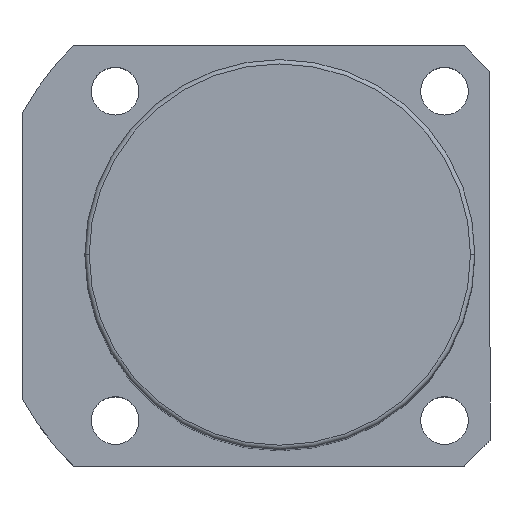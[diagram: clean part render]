
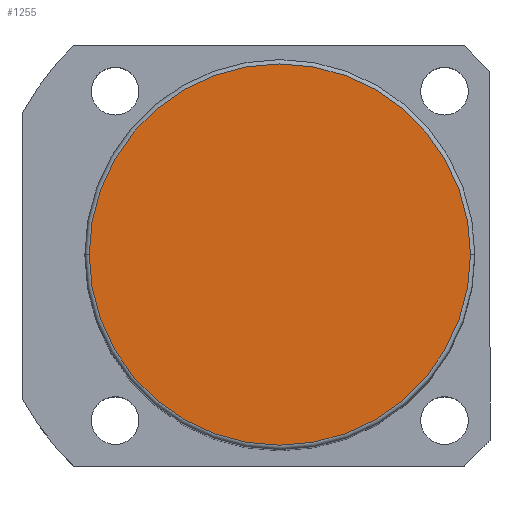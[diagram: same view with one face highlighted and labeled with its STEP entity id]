
A CAD part, top view. The second image highlights one B-rep face of the part: STEP entity #1255.
In plain terms, the highlighted planar face has unit normal (0, 0, 1).
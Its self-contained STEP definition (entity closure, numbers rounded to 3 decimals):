
#142 = VERTEX_POINT ( 'NONE', #2237 ) ;
#681 = FACE_OUTER_BOUND ( 'NONE', #4672, .T. ) ;
#1215 = EDGE_CURVE ( 'NONE', #142, #6666, #4941, .T. ) ;
#1255 = ADVANCED_FACE ( 'NONE', ( #681 ), #5031, .T. ) ;
#2136 = EDGE_CURVE ( 'NONE', #6666, #142, #6384, .T. ) ;
#2178 = DIRECTION ( 'NONE',  ( 1., 0., 0. ) ) ;
#2237 = CARTESIAN_POINT ( 'NONE',  ( -44., 0., 186.5 ) ) ;
#2252 = DIRECTION ( 'NONE',  ( 0., 0., 1. ) ) ;
#2608 = ORIENTED_EDGE ( 'NONE', *, *, #2136, .T. ) ;
#4203 = DIRECTION ( 'NONE',  ( 0., 0., 1. ) ) ;
#4256 = DIRECTION ( 'NONE',  ( 1., 0., 0. ) ) ;
#4672 = EDGE_LOOP ( 'NONE', ( #2608, #6977 ) ) ;
#4895 = AXIS2_PLACEMENT_3D ( 'NONE', #6498, #4203, #5718 ) ;
#4941 = CIRCLE ( 'NONE', #4947, 44. ) ;
#4947 = AXIS2_PLACEMENT_3D ( 'NONE', #5501, #5458, #4256 ) ;
#5031 = PLANE ( 'NONE',  #7177 ) ;
#5059 = CARTESIAN_POINT ( 'NONE',  ( 0., 0., 186.5 ) ) ;
#5458 = DIRECTION ( 'NONE',  ( 0., 0., 1. ) ) ;
#5501 = CARTESIAN_POINT ( 'NONE',  ( 0., 0., 186.5 ) ) ;
#5622 = CARTESIAN_POINT ( 'NONE',  ( 44., 0., 186.5 ) ) ;
#5718 = DIRECTION ( 'NONE',  ( 1., 0., 0. ) ) ;
#6384 = CIRCLE ( 'NONE', #4895, 44. ) ;
#6498 = CARTESIAN_POINT ( 'NONE',  ( 0., 0., 186.5 ) ) ;
#6666 = VERTEX_POINT ( 'NONE', #5622 ) ;
#6977 = ORIENTED_EDGE ( 'NONE', *, *, #1215, .T. ) ;
#7177 = AXIS2_PLACEMENT_3D ( 'NONE', #5059, #2252, #2178 ) ;
